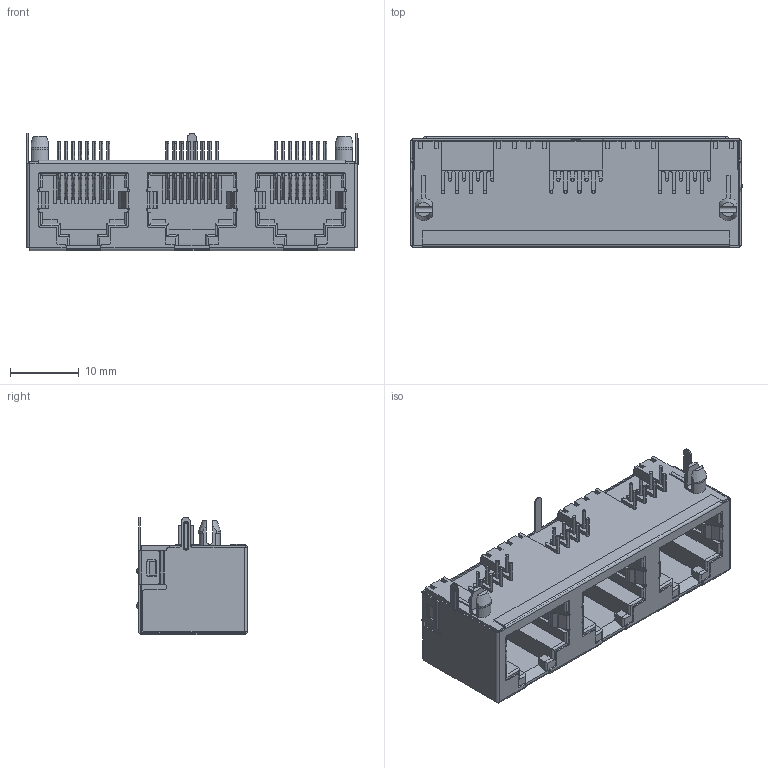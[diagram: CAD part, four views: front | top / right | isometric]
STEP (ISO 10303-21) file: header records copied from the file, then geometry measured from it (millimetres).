
FILE_DESCRIPTION((''),'2;1');
FILE_NAME('56S-LED-1X3-EMI-D0_ASM','2019-07-18T15:34:08',('RD002'),(''),'CREO PARAMETRIC BY PTC INC, 2018260','CREO PARAMETRIC BY PTC INC, 2018260','');
FILE_SCHEMA(('CONFIG_CONTROL_DESIGN','GEOMETRIC_VALIDATION_PROPERTIES_MIM'));
Products named in the file (3): 56LED-1X3-D00; 56-LED-1X3-D000; 56S-LED-1X3-EMI-D0_ASM
Assembly tree (2 placements, depth 2):
  56S-LED-1X3-EMI-D0_ASM
    56LED-1X3-D00
    56-LED-1X3-D000
Bounding box: 48.2 x 16.03 x 17.02 mm (x, y, z)
Volume: 4547 mm3; surface area: 11561.8 mm2
Topology: 2 solids, 2 shells, 1626 faces, 4353 edges, 2699 vertices
Faces by surface type: plane 958, bspline 348, cylinder 304, torus 12, cone 4
Entity records: 65567 total; most frequent: CARTESIAN_POINT 26848, ORIENTED_EDGE 8706, DIRECTION 6902, EDGE_CURVE 4353, VECTOR 3018, LINE 3018, VERTEX_POINT 2699, AXIS2_PLACEMENT_3D 1942
